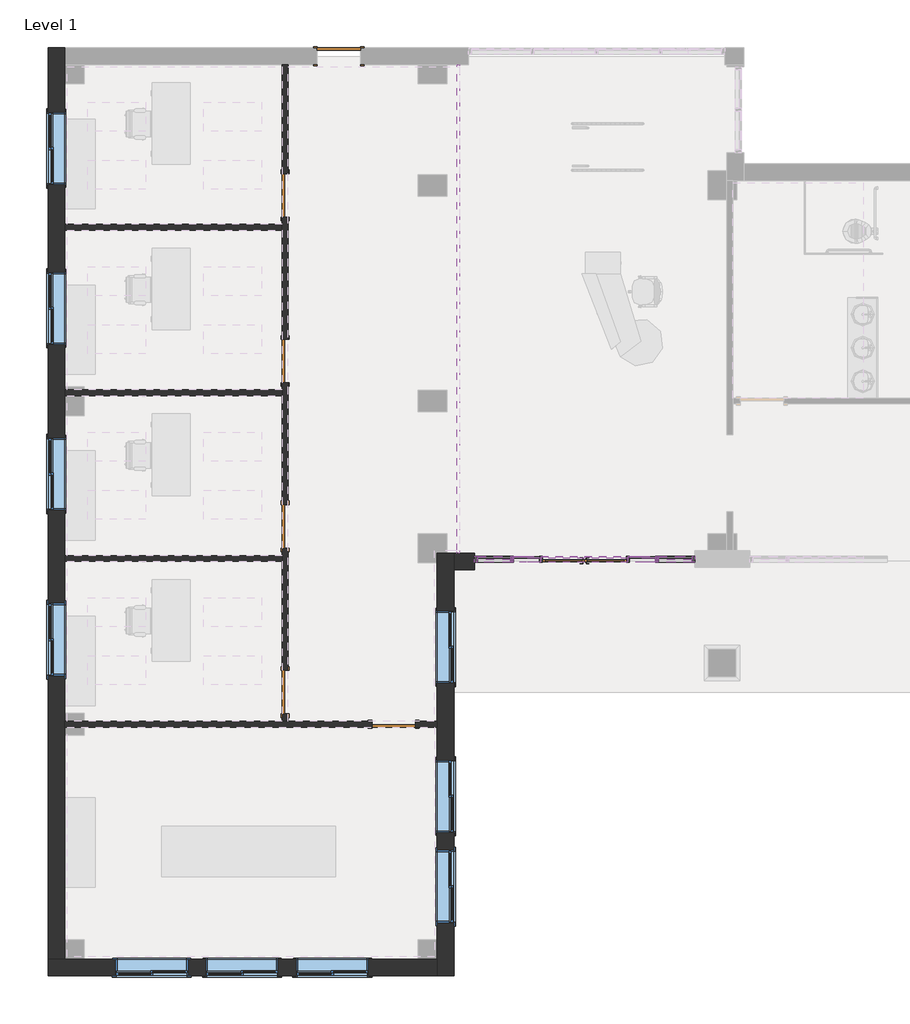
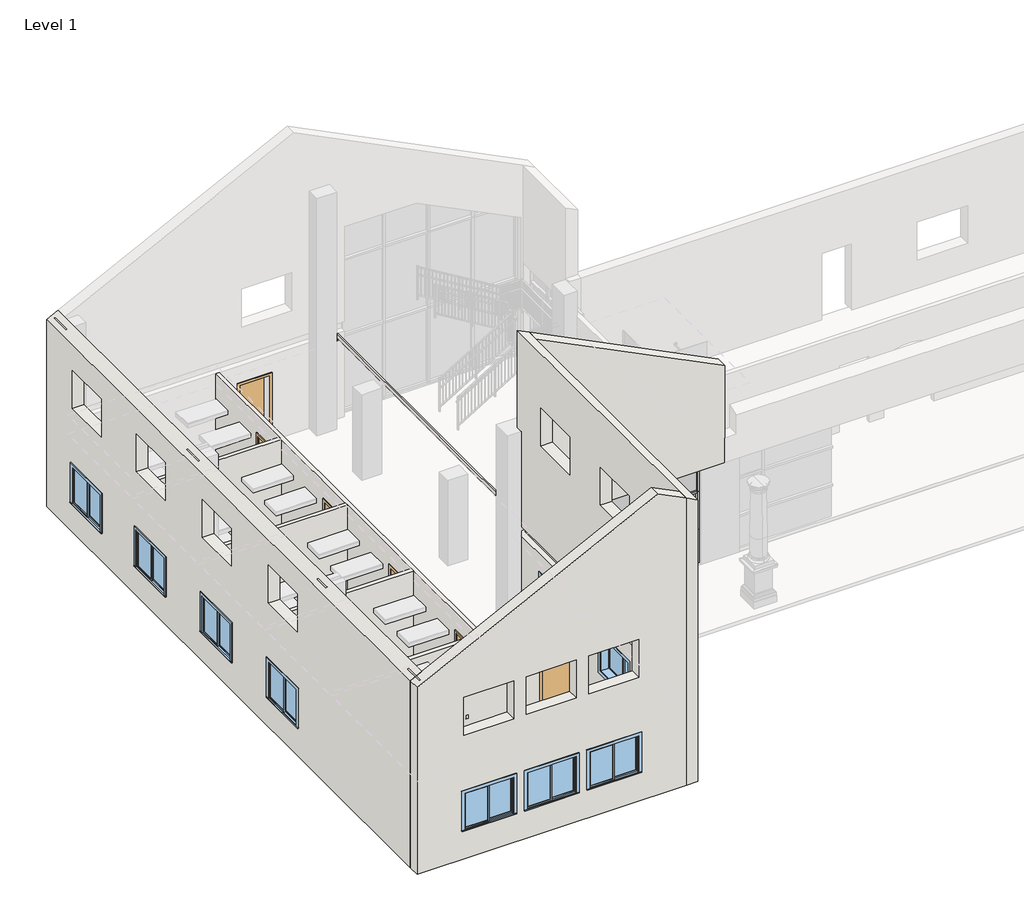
# One storey, part 1 of 8: 28 members, 10 walls, 10 windows, 9 plates, 7 doors.
"""IFC4 building model written with IfcOpenShell, lengths in millimetres."""

from ifc_helpers import new_model, si_unit, origin, origin_with_axes, place, context, project, spatial, polyline, outline, extrude, faceted_brep, transform, mapped, element, save
from components import curtain_wall_store_front_dbl_store_front_double_door_b1cda55e, door_cc5399a4, door_eb9f8b14, member_a715cb85, member_2b49869a, member_c7c5a8a0, member_f3028526, member_75074519, member_c4de40ee, member_2fae0574, member_47bfaf8a, member_13dc6413, member_4ab4c2f5, member_b5e65c95, member_b3f2e294, member_d60e8053, member_3ca69e07, member_338de68b, system_panel_glazed_53b4157c, system_panel_glazed_7b5ce646, system_panel_glazed_23a32a5b, system_panel_glazed_4b03a3f1, system_panel_glazed_2f00aa6c, system_panel_glazed_88a41a63, system_panel_solid_52285aff, system_panel_solid_6039f36e, window_8313e728

model = new_model("IFC4")

# Units and contexts
model_context = context("Model", 3, world=origin())
ifc_project = project(units=[si_unit("LENGTHUNIT", "METRE", prefix="MILLI")], contexts=[model_context])

# Site, building, storey
site = spatial("IfcSite", under=ifc_project)
building = spatial("IfcBuilding", under=site)
storey = spatial("IfcBuildingStorey", under=building, Name="Level 1", Elevation=0.0)

# Doors
placement = place(None, origin())
curtain_wall_store_front_dbl_store_front_double_door_shape = curtain_wall_store_front_dbl_store_front_double_door_b1cda55e(model_context)
element("IfcDoor", 1, ObjectType="Curtain Wall-Store Front-Dbl : Store Front Double Door", at=placement, inside=storey, context=model_context, shape_type="MappedRepresentation", body=[
    mapped(curtain_wall_store_front_dbl_store_front_double_door_shape, transform((-2655.3516552, 175.3980424, 0.0), x_axis=(1.0, 0.0, 0.0), y_axis=(0.0, 1.0, 0.0), z_axis=(0.0, 0.0, 1.0))),
])
door_shape = door_cc5399a4(model_context)
element("IfcDoor", 2, ObjectType="Single-Flush : 36\" x 84\"", at=placement, inside=storey, context=model_context, shape_type="MappedRepresentation", body=[
    mapped(door_shape, transform((-7821.0766552, 10744.9730424, 0.0), x_axis=(-1.0, 0.0, 0.0), y_axis=(0.0, -1.0, 0.0), z_axis=(0.0, 0.0, 1.0))),
])
door_2_shape = door_eb9f8b14(model_context)
element("IfcDoor", 3, ObjectType="Single-Flush : 36\" x 84\"", at=placement, inside=storey, context=model_context, shape_type="MappedRepresentation", body=[
    mapped(door_2_shape, transform((-6668.5516552, -3294.8769576, 0.0), x_axis=(1.0, 0.0, 0.0), y_axis=(0.0, 1.0, 0.0), z_axis=(0.0, 0.0, 1.0))),
])
element("IfcDoor", 4, ObjectType="Single-Flush : 36\" x 84\"", at=placement, inside=storey, context=model_context, shape_type="MappedRepresentation", body=[
    mapped(door_2_shape, transform((-8949.7891552, -2623.3644576, 0.0), x_axis=(0.0, -1.0, 0.0), y_axis=(1.0, 0.0, 0.0), z_axis=(0.0, 0.0, 1.0))),
])
element("IfcDoor", 5, ObjectType="Single-Flush : 36\" x 84\"", at=placement, inside=storey, context=model_context, shape_type="MappedRepresentation", body=[
    mapped(door_2_shape, transform((-8949.7891552, 862.7855424, 0.0), x_axis=(0.0, -1.0, 0.0), y_axis=(1.0, 0.0, 0.0), z_axis=(0.0, 0.0, 1.0))),
])
element("IfcDoor", 6, ObjectType="Single-Flush : 36\" x 84\"", at=placement, inside=storey, context=model_context, shape_type="MappedRepresentation", body=[
    mapped(door_2_shape, transform((-8949.7891552, 4339.4105424, 0.0), x_axis=(0.0, -1.0, 0.0), y_axis=(1.0, 0.0, 0.0), z_axis=(0.0, 0.0, 1.0))),
])
element("IfcDoor", 7, ObjectType="Single-Flush : 36\" x 84\"", at=placement, inside=storey, context=model_context, shape_type="MappedRepresentation", body=[
    mapped(door_2_shape, transform((-8949.7891552, 7820.7980424, 0.0), x_axis=(0.0, -1.0, 0.0), y_axis=(1.0, 0.0, 0.0), z_axis=(0.0, 0.0, 1.0))),
])

# Members
member_shape = member_a715cb85(model_context)
element("IfcMember", 8, ObjectType="Rectangular Mullion : 2.5\" x 5\" Rectangular", at=placement, inside=storey, context=model_context, shape_type="MappedRepresentation", body=[
    mapped(member_shape, transform((-4179.3516552, 175.3980424, 0.0), x_axis=(1.0, 0.0, 0.0), y_axis=(0.0, -1.0, 0.0), z_axis=(0.0, 0.0, -1.0))),
])
element("IfcMember", 9, ObjectType="Rectangular Mullion : 2.5\" x 5\" Rectangular", at=placement, inside=storey, context=model_context, shape_type="MappedRepresentation", body=[
    mapped(member_shape, transform((-1131.3516552, 175.3980424, 0.0), x_axis=(1.0, 0.0, 0.0), y_axis=(0.0, -1.0, 0.0), z_axis=(0.0, 0.0, -1.0))),
])
element("IfcMember", 10, ObjectType="Rectangular Mullion : 2.5\" x 5\" Rectangular", at=placement, inside=storey, context=model_context, shape_type="MappedRepresentation", body=[
    mapped(member_shape, transform((-369.3516552, 175.3980424, 0.0), x_axis=(1.0, 0.0, 0.0), y_axis=(0.0, -1.0, 0.0), z_axis=(0.0, 0.0, -1.0))),
])
member_2_shape = member_2b49869a(model_context)
element("IfcMember", 11, ObjectType="Rectangular Mullion : 2.5\" x 5\" Rectangular", at=placement, inside=storey, context=model_context, shape_type="MappedRepresentation", body=[
    mapped(member_2_shape, transform((-4179.3516552, 175.3980424, 1066.8), x_axis=(1.0, 0.0, 0.0), y_axis=(0.0, -1.0, 0.0), z_axis=(0.0, 0.0, -1.0))),
])
element("IfcMember", 12, ObjectType="Rectangular Mullion : 2.5\" x 5\" Rectangular", at=placement, inside=storey, context=model_context, shape_type="MappedRepresentation", body=[
    mapped(member_2_shape, transform((-1131.3516552, 175.3980424, 1066.8), x_axis=(1.0, 0.0, 0.0), y_axis=(0.0, -1.0, 0.0), z_axis=(0.0, 0.0, -1.0))),
])
element("IfcMember", 13, ObjectType="Rectangular Mullion : 2.5\" x 5\" Rectangular", at=placement, inside=storey, context=model_context, shape_type="MappedRepresentation", body=[
    mapped(member_2_shape, transform((-369.3516552, 175.3980424, 1066.8), x_axis=(1.0, 0.0, 0.0), y_axis=(0.0, -1.0, 0.0), z_axis=(0.0, 0.0, -1.0))),
])
member_3_shape = member_c7c5a8a0(model_context)
element("IfcMember", 14, ObjectType="Rectangular Mullion : 2.5\" x 5\" Rectangular", at=placement, inside=storey, context=model_context, shape_type="MappedRepresentation", body=[
    mapped(member_3_shape, transform((-401.1016552, 175.3980424, 2286.0), x_axis=(0.0, 0.0, 1.0), y_axis=(0.0, -1.0, 0.0), z_axis=(1.0, 0.0, 0.0))),
])
element("IfcMember", 15, ObjectType="Rectangular Mullion : 2.5\" x 5\" Rectangular", at=placement, inside=storey, context=model_context, shape_type="MappedRepresentation", body=[
    mapped(member_3_shape, transform((-401.1016552, 175.3980424, 1066.8), x_axis=(0.0, 0.0, 1.0), y_axis=(0.0, -1.0, 0.0), z_axis=(1.0, 0.0, 0.0))),
])
member_4_shape = member_f3028526(model_context)
element("IfcMember", 16, ObjectType="Rectangular Mullion : 2.5\" x 5\" Rectangular", at=placement, inside=storey, context=model_context, shape_type="MappedRepresentation", body=[
    mapped(member_4_shape, transform((-4211.1016552, 175.3980424, 2286.0), x_axis=(0.0, 0.0, 1.0), y_axis=(0.0, -1.0, 0.0), z_axis=(1.0, 0.0, 0.0))),
])
element("IfcMember", 17, ObjectType="Rectangular Mullion : 2.5\" x 5\" Rectangular", at=placement, inside=storey, context=model_context, shape_type="MappedRepresentation", body=[
    mapped(member_4_shape, transform((-4211.1016552, 175.3980424, 1066.8), x_axis=(0.0, 0.0, 1.0), y_axis=(0.0, -1.0, 0.0), z_axis=(1.0, 0.0, 0.0))),
])
member_5_shape = member_75074519(model_context)
element("IfcMember", 18, ObjectType="Rectangular Mullion : 2.5\" x 5\" Rectangular", at=placement, inside=storey, context=model_context, shape_type="MappedRepresentation", body=[
    mapped(member_5_shape, transform((-4968.3391552, 175.3980424, 2286.0), x_axis=(-1.0, 0.0, 0.0), y_axis=(0.0, -1.0, 0.0), z_axis=(0.0, 0.0, 1.0))),
])
member_6_shape = member_c4de40ee(model_context)
element("IfcMember", 19, ObjectType="Rectangular Mullion : 2.5\" x 5\" Rectangular", at=placement, inside=storey, context=model_context, shape_type="MappedRepresentation", body=[
    mapped(member_6_shape, transform((-4968.3391552, 175.3980424, 1066.8), x_axis=(-1.0, 0.0, 0.0), y_axis=(0.0, -1.0, 0.0), z_axis=(0.0, 0.0, 1.0))),
])
member_7_shape = member_2fae0574(model_context)
element("IfcMember", 20, ObjectType="Rectangular Mullion : 2.5\" x 5\" Rectangular", at=placement, inside=storey, context=model_context, shape_type="MappedRepresentation", body=[
    mapped(member_7_shape, transform((-1740.9516552, 175.3980424, 3060.0), x_axis=(0.0, 0.0, 1.0), y_axis=(0.0, -1.0, 0.0), z_axis=(1.0, 0.0, 0.0))),
])
member_8_shape = member_47bfaf8a(model_context)
element("IfcMember", 21, ObjectType="Rectangular Mullion : 2.5\" x 5\" Rectangular", at=placement, inside=storey, context=model_context, shape_type="MappedRepresentation", body=[
    mapped(member_8_shape, transform((-3569.7516552, 175.3980424, 3060.0), x_axis=(0.0, 0.0, 1.0), y_axis=(0.0, -1.0, 0.0), z_axis=(1.0, 0.0, 0.0))),
])
element("IfcMember", 22, ObjectType="Rectangular Mullion : 2.5\" x 5\" Rectangular", at=placement, inside=storey, context=model_context, shape_type="MappedRepresentation", body=[
    mapped(member_8_shape, transform((-1131.3516552, 175.3980424, 3060.0), x_axis=(0.0, 0.0, 1.0), y_axis=(0.0, -1.0, 0.0), z_axis=(1.0, 0.0, 0.0))),
])
member_9_shape = member_13dc6413(model_context)
element("IfcMember", 23, ObjectType="Rectangular Mullion : 2.5\" x 5\" Rectangular", at=placement, inside=storey, context=model_context, shape_type="MappedRepresentation", body=[
    mapped(member_9_shape, transform((-337.6016552, 175.3980424, 3060.0), x_axis=(0.0, 0.0, 1.0), y_axis=(0.0, -1.0, 0.0), z_axis=(1.0, 0.0, 0.0))),
])
member_10_shape = member_4ab4c2f5(model_context)
element("IfcMember", 24, ObjectType="Rectangular Mullion : 2.5\" x 5\" Rectangular", at=placement, inside=storey, context=model_context, shape_type="MappedRepresentation", body=[
    mapped(member_10_shape, transform((-4179.3516552, 175.3980424, 3060.0), x_axis=(0.0, 0.0, 1.0), y_axis=(0.0, -1.0, 0.0), z_axis=(1.0, 0.0, 0.0))),
])
element("IfcMember", 25, ObjectType="Rectangular Mullion : 2.5\" x 5\" Rectangular", at=placement, inside=storey, context=model_context, shape_type="MappedRepresentation", body=[
    mapped(member_shape, transform((-3569.7516552, 175.3980424, 0.0), x_axis=(1.0, 0.0, 0.0), y_axis=(0.0, -1.0, 0.0), z_axis=(0.0, 0.0, -1.0))),
])
element("IfcMember", 26, ObjectType="Rectangular Mullion : 2.5\" x 5\" Rectangular", at=placement, inside=storey, context=model_context, shape_type="MappedRepresentation", body=[
    mapped(member_shape, transform((-1740.9516552, 175.3980424, 0.0), x_axis=(1.0, 0.0, 0.0), y_axis=(0.0, -1.0, 0.0), z_axis=(0.0, 0.0, -1.0))),
])
member_11_shape = member_b5e65c95(model_context)
element("IfcMember", 27, ObjectType="Rectangular Mullion : 2.5\" x 5\" Rectangular", at=placement, inside=storey, context=model_context, shape_type="MappedRepresentation", body=[
    mapped(member_11_shape, transform((-3569.7516552, 175.3980424, 2286.0), x_axis=(0.0, 0.0, 1.0), y_axis=(0.0, -1.0, 0.0), z_axis=(1.0, 0.0, 0.0))),
])
member_12_shape = member_b3f2e294(model_context)
element("IfcMember", 28, ObjectType="Rectangular Mullion : 2.5\" x 5\" Rectangular", at=placement, inside=storey, context=model_context, shape_type="MappedRepresentation", body=[
    mapped(member_12_shape, transform((-3569.7516552, 175.3980424, 1066.8), x_axis=(1.0, 0.0, 0.0), y_axis=(0.0, -1.0, 0.0), z_axis=(0.0, 0.0, -1.0))),
])
element("IfcMember", 29, ObjectType="Rectangular Mullion : 2.5\" x 5\" Rectangular", at=placement, inside=storey, context=model_context, shape_type="MappedRepresentation", body=[
    mapped(member_12_shape, transform((-1740.9516552, 175.3980424, 1066.8), x_axis=(1.0, 0.0, 0.0), y_axis=(0.0, -1.0, 0.0), z_axis=(0.0, 0.0, -1.0))),
])
element("IfcMember", 30, ObjectType="Rectangular Mullion : 2.5\" x 5\" Rectangular", at=placement, inside=storey, context=model_context, shape_type="MappedRepresentation", body=[
    mapped(member_11_shape, transform((-1163.1016552, 175.3980424, 2286.0), x_axis=(0.0, 0.0, 1.0), y_axis=(0.0, -1.0, 0.0), z_axis=(1.0, 0.0, 0.0))),
])
member_13_shape = member_d60e8053(model_context)
element("IfcMember", 31, ObjectType="Rectangular Mullion : 2.5\" x 5\" Rectangular", at=placement, inside=storey, context=model_context, shape_type="MappedRepresentation", body=[
    mapped(member_13_shape, transform((-1740.9516552, 175.3980424, 2286.0), x_axis=(0.0, 0.0, 1.0), y_axis=(0.0, -1.0, 0.0), z_axis=(1.0, 0.0, 0.0))),
])
member_14_shape = member_3ca69e07(model_context)
element("IfcMember", 32, ObjectType="Rectangular Mullion : 2.5\" x 5\" Rectangular", at=placement, inside=storey, context=model_context, shape_type="MappedRepresentation", body=[
    mapped(member_14_shape, transform((-4179.3516552, 175.3980424, 2286.0), x_axis=(1.0, 0.0, 0.0), y_axis=(0.0, -1.0, 0.0), z_axis=(0.0, 0.0, -1.0))),
])
element("IfcMember", 33, ObjectType="Rectangular Mullion : 2.5\" x 5\" Rectangular", at=placement, inside=storey, context=model_context, shape_type="MappedRepresentation", body=[
    mapped(member_14_shape, transform((-1131.3516552, 175.3980424, 2286.0), x_axis=(1.0, 0.0, 0.0), y_axis=(0.0, -1.0, 0.0), z_axis=(0.0, 0.0, -1.0))),
])
element("IfcMember", 34, ObjectType="Rectangular Mullion : 2.5\" x 5\" Rectangular", at=placement, inside=storey, context=model_context, shape_type="MappedRepresentation", body=[
    mapped(member_14_shape, transform((-369.3516552, 175.3980424, 2286.0), x_axis=(1.0, 0.0, 0.0), y_axis=(0.0, -1.0, 0.0), z_axis=(0.0, 0.0, -1.0))),
])
member_15_shape = member_338de68b(model_context)
element("IfcMember", 35, ObjectType="Rectangular Mullion : 2.5\" x 5\" Rectangular", at=placement, inside=storey, context=model_context, shape_type="MappedRepresentation", body=[
    mapped(member_15_shape, transform((-4968.3391552, 175.3980424, 2996.5), x_axis=(-1.0, 0.0, 0.0), y_axis=(0.0, -1.0, 0.0), z_axis=(0.0, 0.0, 1.0))),
])

# Plates
system_panel_glazed_shape = system_panel_glazed_53b4157c(model_context)
element("IfcPlate", 36, ObjectType="System Panel : Glazed", at=placement, inside=storey, context=model_context, shape_type="MappedRepresentation", body=[
    mapped(system_panel_glazed_shape, transform((-750.3516552, 175.3980424, 0.0), x_axis=(1.0, 0.0, 0.0), y_axis=(0.0, 1.0, 0.0), z_axis=(0.0, 0.0, 1.0))),
])
system_panel_glazed_2_shape = system_panel_glazed_7b5ce646(model_context)
element("IfcPlate", 37, ObjectType="System Panel : Glazed", at=placement, inside=storey, context=model_context, shape_type="MappedRepresentation", body=[
    mapped(system_panel_glazed_2_shape, transform((-750.3516552, 175.3980424, 1098.55), x_axis=(1.0, 0.0, 0.0), y_axis=(0.0, 1.0, 0.0), z_axis=(0.0, 0.0, 1.0))),
])
system_panel_glazed_3_shape = system_panel_glazed_23a32a5b(model_context)
element("IfcPlate", 38, ObjectType="System Panel : Glazed", at=placement, inside=storey, context=model_context, shape_type="MappedRepresentation", body=[
    mapped(system_panel_glazed_3_shape, transform((-4557.9704052, 175.3980424, 0.0), x_axis=(1.0, 0.0, 0.0), y_axis=(0.0, 1.0, 0.0), z_axis=(0.0, 0.0, 1.0))),
])
system_panel_glazed_4_shape = system_panel_glazed_4b03a3f1(model_context)
element("IfcPlate", 39, ObjectType="System Panel : Glazed", at=placement, inside=storey, context=model_context, shape_type="MappedRepresentation", body=[
    mapped(system_panel_glazed_4_shape, transform((-4557.9704052, 175.3980424, 1098.55), x_axis=(1.0, 0.0, 0.0), y_axis=(0.0, 1.0, 0.0), z_axis=(0.0, 0.0, 1.0))),
])
system_panel_glazed_5_shape = system_panel_glazed_2f00aa6c(model_context)
element("IfcPlate", 40, ObjectType="System Panel : Glazed", at=placement, inside=storey, context=model_context, shape_type="MappedRepresentation", body=[
    mapped(system_panel_glazed_5_shape, transform((-3874.5516552, 175.3980424, 0.0), x_axis=(1.0, 0.0, 0.0), y_axis=(0.0, 1.0, 0.0), z_axis=(0.0, 0.0, 1.0))),
])
element("IfcPlate", 41, ObjectType="System Panel : Glazed", at=placement, inside=storey, context=model_context, shape_type="MappedRepresentation", body=[
    mapped(system_panel_glazed_5_shape, transform((-1436.1516552, 175.3980424, 0.0), x_axis=(1.0, 0.0, 0.0), y_axis=(0.0, 1.0, 0.0), z_axis=(0.0, 0.0, 1.0))),
])
system_panel_glazed_6_shape = system_panel_glazed_88a41a63(model_context)
element("IfcPlate", 42, ObjectType="System Panel : Glazed", at=placement, inside=storey, context=model_context, shape_type="MappedRepresentation", body=[
    mapped(system_panel_glazed_6_shape, transform((-2655.3516552, 175.3980424, 2317.75), x_axis=(1.0, 0.0, 0.0), y_axis=(0.0, 1.0, 0.0), z_axis=(0.0, 0.0, 1.0))),
])
system_panel_solid_shape = system_panel_solid_52285aff(model_context)
element("IfcPlate", 43, ObjectType="System Panel : Solid", at=placement, inside=storey, context=model_context, shape_type="MappedRepresentation", body=[
    mapped(system_panel_solid_shape, transform((-4557.9704052, 175.3980424, 2317.75), x_axis=(1.0, 0.0, 0.0), y_axis=(0.0, 1.0, 0.0), z_axis=(0.0, 0.0, 1.0))),
])
system_panel_solid_2_shape = system_panel_solid_6039f36e(model_context)
element("IfcPlate", 44, ObjectType="System Panel : Solid", at=placement, inside=storey, context=model_context, shape_type="MappedRepresentation", body=[
    mapped(system_panel_solid_2_shape, transform((-750.3516552, 175.3980424, 2317.75), x_axis=(1.0, 0.0, 0.0), y_axis=(0.0, 1.0, 0.0), z_axis=(0.0, 0.0, 1.0))),
])

# Walls
element("IfcWall", 45, ObjectType="Soffit - 1/2\" GWB & Metal Stud", at=placement, inside=storey, context=model_context, shape_type="Brep", body=[
    faceted_brep([(-5284.2516552, 10568.7605424, 2755.2), (-5284.2516552, 9522.777236, 2755.2), (-5284.2516552, 300.8105424, 2755.2), (-5284.2516552, 300.8105424, 2540.0), (-5284.2516552, 351.6105424, 2540.0), (-5284.2516552, 351.6105424, 2647.95), (-5284.2516552, 10517.9605424, 2647.95), (-5284.2516552, 10517.9605424, 2540.0), (-5284.2516552, 10568.7605424, 2540.0), (-5335.0516552, 300.8105424, 2755.2), (-5335.0516552, 10568.7605424, 2755.2), (-5335.0516552, 10568.7605424, 2540.0), (-5335.0516552, 10517.9605424, 2540.0), (-5335.0516552, 10517.9605424, 2647.95), (-5335.0516552, 351.6105424, 2647.95), (-5335.0516552, 351.6105424, 2540.0), (-5335.0516552, 300.8105424, 2540.0)], [[[0, 1, 2, 3, 4, 5, 6, 7, 8]], [[9, 10, 11, 12, 13, 14, 15, 16]], [[11, 8, 7, 12]], [[3, 16, 15, 4]], [[10, 9, 2, 1, 0]], [[13, 6, 5, 14]], [[14, 5, 4, 15]], [[6, 13, 12, 7]], [[0, 8, 11, 10]], [[3, 2, 9, 16]]]),
])
element("IfcWall", 46, ObjectType="Exterior - Brick on Mtl. Stud", at=placement, inside=storey, context=model_context, shape_type="Brep", body=[
    faceted_brep([(-5754.1516552, 300.8105424, 0.0), (-5754.1516552, 97.6105424, 0.0), (-5754.1516552, -3232.9644576, 0.0), (-5754.1516552, -3356.7894576, 0.0), (-5754.1516552, -7827.1894576, 0.0), (-5754.1516552, -8233.5894576, 0.0), (-5754.1516552, -8586.0144576, 0.0), (-5754.1516552, -8586.0144576, 9230.55), (-5754.1516552, -8233.5894576, 9230.55), (-5754.1516552, 300.8105424, 9230.55), (-5754.1516552, 300.8105424, 6100.0), (-5754.1516552, 300.8105424, 3060.0), (-5754.1516552, -3232.9644576, 3060.0), (-5754.1516552, -3356.7894576, 3060.0), (-5754.1516552, -8233.5894576, 3060.0), (-5754.1516552, -8398.6894576, 3060.0), (-5754.1516552, -8398.6894576, 2755.2), (-5754.1516552, -8233.5894576, 2755.2), (-5754.1516552, -3356.7894576, 2755.2), (-5754.1516552, -3232.9644576, 2755.2), (-5754.1516552, 300.8105424, 2755.2), (-5754.1516552, -7471.5894576, 2133.6), (-5754.1516552, -7471.5894576, 914.4), (-5754.1516552, -5947.5894576, 914.4), (-5754.1516552, -5947.5894576, 2133.6), (-5754.1516552, -5572.9394576, 2133.6), (-5754.1516552, -5572.9394576, 914.4), (-5754.1516552, -4048.9394576, 914.4), (-5754.1516552, -4048.9394576, 2133.6), (-5754.1516552, -2439.2144576, 2133.6), (-5754.1516552, -2439.2144576, 914.4), (-5754.1516552, -915.2144576, 914.4), (-5754.1516552, -915.2144576, 2133.6), (-5754.1516552, -2439.2144576, 7471.6), (-5754.1516552, -2439.2144576, 6252.4), (-5754.1516552, -915.2144576, 6252.4), (-5754.1516552, -915.2144576, 7471.6), (-5754.1516552, -5572.9394576, 7471.6), (-5754.1516552, -5572.9394576, 6252.4), (-5754.1516552, -4048.9394576, 6252.4), (-5754.1516552, -4048.9394576, 7471.6), (-5754.1516552, -7471.5894576, 7471.6), (-5754.1516552, -7471.5894576, 6252.4), (-5754.1516552, -5947.5894576, 6252.4), (-5754.1516552, -5947.5894576, 7471.6), (-5754.1516552, -5572.9394576, 5193.6), (-5754.1516552, -5572.9394576, 3974.4), (-5754.1516552, -4048.9394576, 3974.4), (-5754.1516552, -4048.9394576, 5193.6), (-5754.1516552, -7471.5894576, 5193.6), (-5754.1516552, -7471.5894576, 3974.4), (-5754.1516552, -5947.5894576, 3974.4), (-5754.1516552, -5947.5894576, 5193.6), (-5401.7266552, -8586.0144576, 0.0), (-5401.7266552, -51.6144576, 0.0), (-5401.7266552, 300.8105424, 0.0), (-5401.7266552, 300.8105424, 2755.2), (-5401.7266552, 175.3980424, 2755.2), (-5401.7266552, 175.3980424, 3060.0), (-5401.7266552, 300.8105424, 3060.0), (-5401.7266552, 300.8105424, 9054.3375), (-5401.7266552, -51.6144576, 9054.3375), (-5401.7266552, -8586.0144576, 9054.3375), (-5401.7266552, -7471.5894576, 914.4), (-5401.7266552, -7471.5894576, 2133.6), (-5401.7266552, -5947.5894576, 2133.6), (-5401.7266552, -5947.5894576, 914.4), (-5401.7266552, -5572.9394576, 914.4), (-5401.7266552, -5572.9394576, 2133.6), (-5401.7266552, -4048.9394576, 2133.6), (-5401.7266552, -4048.9394576, 914.4), (-5401.7266552, -2439.2144576, 914.4), (-5401.7266552, -2439.2144576, 2133.6), (-5401.7266552, -915.2144576, 2133.6), (-5401.7266552, -915.2144576, 914.4), (-5401.7266552, -2439.2144576, 6252.4), (-5401.7266552, -2439.2144576, 7471.6), (-5401.7266552, -915.2144576, 7471.6), (-5401.7266552, -915.2144576, 6252.4), (-5401.7266552, -5572.9394576, 6252.4), (-5401.7266552, -5572.9394576, 7471.6), (-5401.7266552, -4048.9394576, 7471.6), (-5401.7266552, -4048.9394576, 6252.4), (-5401.7266552, -7471.5894576, 6252.4), (-5401.7266552, -7471.5894576, 7471.6), (-5401.7266552, -5947.5894576, 7471.6), (-5401.7266552, -5947.5894576, 6252.4), (-5401.7266552, -5572.9394576, 3974.4), (-5401.7266552, -5572.9394576, 5193.6), (-5401.7266552, -4048.9394576, 5193.6), (-5401.7266552, -4048.9394576, 3974.4), (-5401.7266552, -7471.5894576, 3974.4), (-5401.7266552, -7471.5894576, 5193.6), (-5401.7266552, -5947.5894576, 5193.6), (-5401.7266552, -5947.5894576, 3974.4), (-5550.9516552, 300.8105424, 0.0), (-5589.0516552, -8398.6894576, 2755.2), (-5589.0516552, 175.3980424, 2755.2), (-5589.0516552, 175.3980424, 3060.0), (-5589.0516552, -8398.6894576, 3060.0)], [[[0, 1, 2, 3, 4, 5, 6, 7, 8, 9, 10, 11, 12, 13, 14, 15, 16, 17, 18, 19, 20], [21, 22, 23, 24], [25, 26, 27, 28], [29, 30, 31, 32], [33, 34, 35, 36], [37, 38, 39, 40], [41, 42, 43, 44], [45, 46, 47, 48], [49, 50, 51, 52]], [[53, 54, 55, 56, 57, 58, 59, 60, 61, 62], [63, 64, 65, 66], [67, 68, 69, 70], [71, 72, 73, 74], [75, 76, 77, 78], [79, 80, 81, 82], [83, 84, 85, 86], [87, 88, 89, 90], [91, 92, 93, 94]], [[6, 5, 4, 3, 2, 1, 0, 95, 55, 54, 53]], [[22, 21, 64, 63]], [[23, 22, 63, 66]], [[24, 23, 66, 65]], [[21, 24, 65, 64]], [[26, 25, 68, 67]], [[27, 26, 67, 70]], [[28, 27, 70, 69]], [[25, 28, 69, 68]], [[30, 29, 72, 71]], [[31, 30, 71, 74]], [[32, 31, 74, 73]], [[29, 32, 73, 72]], [[9, 8, 7, 62, 61, 60]], [[34, 33, 76, 75]], [[35, 34, 75, 78]], [[36, 35, 78, 77]], [[33, 36, 77, 76]], [[38, 37, 80, 79]], [[39, 38, 79, 82]], [[40, 39, 82, 81]], [[37, 40, 81, 80]], [[42, 41, 84, 83]], [[43, 42, 83, 86]], [[44, 43, 86, 85]], [[41, 44, 85, 84]], [[46, 45, 88, 87]], [[47, 46, 87, 90]], [[48, 47, 90, 89]], [[45, 48, 89, 88]], [[50, 49, 92, 91]], [[51, 50, 91, 94]], [[52, 51, 94, 93]], [[49, 52, 93, 92]], [[96, 97, 57, 56, 20, 19, 18, 17, 16]], [[98, 99, 15, 14, 13, 12, 11, 59, 58]], [[97, 96, 99, 98]], [[99, 96, 16, 15]], [[9, 60, 59, 11, 10]], [[55, 95, 0, 20, 56]], [[7, 6, 53, 62]], [[97, 98, 58, 57]]]),
])
element("IfcWall", 47, ObjectType="Exterior - Brick on Mtl. Stud", at=placement, inside=storey, context=model_context, shape_type="Brep", body=[
    faceted_brep([(-5754.1516552, -8233.5894576, 0.0), (-6160.5516552, -8233.5894576, 0.0), (-13177.3016552, -8233.5894576, 0.0), (-13583.7016552, -8233.5894576, 0.0), (-13936.1266552, -8233.5894576, 0.0), (-13936.1266552, -8233.5894576, 6006.3375), (-13583.7016552, -8233.5894576, 6182.55), (-6620.9266552, -8233.5894576, 9663.9375), (-5754.1516552, -8233.5894576, 9230.55), (-5754.1516552, -8233.5894576, 6100.0), (-5754.1516552, -8233.5894576, 3060.0), (-13596.4016552, -8233.5894576, 3060.0), (-13596.4016552, -8233.5894576, 2755.2), (-5754.1516552, -8233.5894576, 2755.2), (-12516.9016552, -8233.5894576, 2133.6), (-12516.9016552, -8233.5894576, 914.4), (-10992.9016552, -8233.5894576, 914.4), (-10992.9016552, -8233.5894576, 2133.6), (-10618.2516552, -8233.5894576, 2133.6), (-10618.2516552, -8233.5894576, 914.4), (-9094.2516552, -8233.5894576, 914.4), (-9094.2516552, -8233.5894576, 2133.6), (-8719.6016552, -8233.5894576, 2133.6), (-8719.6016552, -8233.5894576, 914.4), (-7195.6016552, -8233.5894576, 914.4), (-7195.6016552, -8233.5894576, 2133.6), (-8719.6016552, -8233.5894576, 5193.6), (-8719.6016552, -8233.5894576, 3974.4), (-7195.6016552, -8233.5894576, 3974.4), (-7195.6016552, -8233.5894576, 5193.6), (-10618.2516552, -8233.5894576, 5193.6), (-10618.2516552, -8233.5894576, 3974.4), (-9094.2516552, -8233.5894576, 3974.4), (-9094.2516552, -8233.5894576, 5193.6), (-12516.9016552, -8233.5894576, 5193.6), (-12516.9016552, -8233.5894576, 3974.4), (-10992.9016552, -8233.5894576, 3974.4), (-10992.9016552, -8233.5894576, 5193.6), (-13936.1266552, -8586.0144576, 0.0), (-5754.1516552, -8586.0144576, 0.0), (-5754.1516552, -8586.0144576, 9230.55), (-6620.9266552, -8586.0144576, 9663.9375), (-13936.1266552, -8586.0144576, 6006.3375), (-12516.9016552, -8586.0144576, 914.4), (-12516.9016552, -8586.0144576, 2133.6), (-10992.9016552, -8586.0144576, 2133.6), (-10992.9016552, -8586.0144576, 914.4), (-10618.2516552, -8586.0144576, 914.4), (-10618.2516552, -8586.0144576, 2133.6), (-9094.2516552, -8586.0144576, 2133.6), (-9094.2516552, -8586.0144576, 914.4), (-8719.6016552, -8586.0144576, 914.4), (-8719.6016552, -8586.0144576, 2133.6), (-7195.6016552, -8586.0144576, 2133.6), (-7195.6016552, -8586.0144576, 914.4), (-8719.6016552, -8586.0144576, 3974.4), (-8719.6016552, -8586.0144576, 5193.6), (-7195.6016552, -8586.0144576, 5193.6), (-7195.6016552, -8586.0144576, 3974.4), (-10618.2516552, -8586.0144576, 3974.4), (-10618.2516552, -8586.0144576, 5193.6), (-9094.2516552, -8586.0144576, 5193.6), (-9094.2516552, -8586.0144576, 3974.4), (-12516.9016552, -8586.0144576, 3974.4), (-12516.9016552, -8586.0144576, 5193.6), (-10992.9016552, -8586.0144576, 5193.6), (-10992.9016552, -8586.0144576, 3974.4), (-13596.4016552, -8398.6894576, 2755.2), (-5754.1516552, -8398.6894576, 2755.2), (-5754.1516552, -8398.6894576, 3060.0), (-13596.4016552, -8398.6894576, 3060.0)], [[[0, 1, 2, 3, 4, 5, 6, 7, 8, 9, 10, 11, 12, 13], [14, 15, 16, 17], [18, 19, 20, 21], [22, 23, 24, 25], [26, 27, 28, 29], [30, 31, 32, 33], [34, 35, 36, 37]], [[38, 39, 40, 41, 42], [43, 44, 45, 46], [47, 48, 49, 50], [51, 52, 53, 54], [55, 56, 57, 58], [59, 60, 61, 62], [63, 64, 65, 66]], [[4, 3, 2, 1, 0, 39, 38]], [[15, 14, 44, 43]], [[16, 15, 43, 46]], [[17, 16, 46, 45]], [[14, 17, 45, 44]], [[19, 18, 48, 47]], [[20, 19, 47, 50]], [[21, 20, 50, 49]], [[18, 21, 49, 48]], [[23, 22, 52, 51]], [[24, 23, 51, 54]], [[25, 24, 54, 53]], [[22, 25, 53, 52]], [[8, 7, 41, 40]], [[7, 6, 5, 42, 41]], [[27, 26, 56, 55]], [[28, 27, 55, 58]], [[29, 28, 58, 57]], [[26, 29, 57, 56]], [[31, 30, 60, 59]], [[32, 31, 59, 62]], [[33, 32, 62, 61]], [[30, 33, 61, 60]], [[35, 34, 64, 63]], [[36, 35, 63, 66]], [[37, 36, 66, 65]], [[34, 37, 65, 64]], [[12, 67, 68, 13]], [[69, 70, 11, 10]], [[67, 70, 69, 68]], [[70, 67, 12, 11]], [[5, 4, 38, 42]], [[8, 40, 39, 0, 13, 68, 69, 10, 9]]]),
])
element("IfcWall", 48, ObjectType="Exterior - Brick on Mtl. Stud", at=placement, inside=storey, context=model_context, shape_type="Brep", body=[
    faceted_brep([(-13583.7016552, -8233.5894576, 0.0), (-13583.7016552, -7827.1894576, 0.0), (-13583.7016552, -3523.4769576, 0.0), (-13583.7016552, -3356.7894576, 0.0), (-13583.7016552, -3232.9644576, 0.0), (-13583.7016552, -3066.2769576, 0.0), (-13583.7016552, 124.5980424, 0.0), (-13583.7016552, 248.4230424, 0.0), (-13583.7016552, 3191.6480424, 0.0), (-13583.7016552, 3605.9855424, 0.0), (-13583.7016552, 3729.8105424, 0.0), (-13583.7016552, 3801.2480424, 0.0), (-13583.7016552, 7087.3730424, 0.0), (-13583.7016552, 7211.1980424, 0.0), (-13583.7016552, 10162.3605424, 0.0), (-13583.7016552, 10568.7605424, 0.0), (-13583.7016552, 10921.1855424, 0.0), (-13583.7016552, 10921.1855424, 6182.55), (-13583.7016552, 10568.7605424, 6182.55), (-13583.7016552, -8233.5894576, 6182.55), (-13583.7016552, -8233.5894576, 6100.0), (-13583.7016552, -8233.5894576, 3060.0), (-13583.7016552, -3356.7894576, 3060.0), (-13583.7016552, -3232.9644576, 3060.0), (-13583.7016552, 124.5980424, 3060.0), (-13583.7016552, 248.4230424, 3060.0), (-13583.7016552, 3605.9855424, 3060.0), (-13583.7016552, 3729.8105424, 3060.0), (-13583.7016552, 7087.3730424, 3060.0), (-13583.7016552, 7211.1980424, 3060.0), (-13583.7016552, 10733.8605424, 3060.0), (-13583.7016552, 10733.8605424, 2755.2), (-13583.7016552, 7211.1980424, 2755.2), (-13583.7016552, 7087.3730424, 2755.2), (-13583.7016552, 3729.8105424, 2755.2), (-13583.7016552, 3605.9855424, 2755.2), (-13583.7016552, 248.4230424, 2755.2), (-13583.7016552, 124.5980424, 2755.2), (-13583.7016552, -3232.9644576, 2755.2), (-13583.7016552, -3356.7894576, 2755.2), (-13583.7016552, -8233.5894576, 2755.2), (-13583.7016552, -757.2582076, 2133.6), (-13583.7016552, -757.2582076, 914.4), (-13583.7016552, -2281.2582076, 914.4), (-13583.7016552, -2281.2582076, 2133.6), (-13583.7016552, 2724.1292924, 2133.6), (-13583.7016552, 2724.1292924, 914.4), (-13583.7016552, 1200.1292924, 914.4), (-13583.7016552, 1200.1292924, 2133.6), (-13583.7016552, 6205.5167924, 2133.6), (-13583.7016552, 6205.5167924, 914.4), (-13583.7016552, 4681.5167924, 914.4), (-13583.7016552, 4681.5167924, 2133.6), (-13583.7016552, 9567.0480424, 2133.6), (-13583.7016552, 9567.0480424, 914.4), (-13583.7016552, 8043.0480424, 914.4), (-13583.7016552, 8043.0480424, 2133.6), (-13583.7016552, 9567.0480424, 5193.6), (-13583.7016552, 9567.0480424, 3974.4), (-13583.7016552, 8043.0480424, 3974.4), (-13583.7016552, 8043.0480424, 5193.6), (-13583.7016552, 6205.5167924, 5193.6), (-13583.7016552, 6205.5167924, 3974.4), (-13583.7016552, 4681.5167924, 3974.4), (-13583.7016552, 4681.5167924, 5193.6), (-13583.7016552, 2724.1292924, 5193.6), (-13583.7016552, 2724.1292924, 3974.4), (-13583.7016552, 1200.1292924, 3974.4), (-13583.7016552, 1200.1292924, 5193.6), (-13583.7016552, -757.2582076, 5193.6), (-13583.7016552, -757.2582076, 3974.4), (-13583.7016552, -2281.2582076, 3974.4), (-13583.7016552, -2281.2582076, 5193.6), (-13936.1266552, 10921.1855424, 0.0), (-13936.1266552, -8233.5894576, 0.0), (-13936.1266552, -8233.5894576, 6006.3375), (-13936.1266552, 10921.1855424, 6006.3375), (-13936.1266552, -757.2582076, 914.4), (-13936.1266552, -757.2582076, 2133.6), (-13936.1266552, -2281.2582076, 2133.6), (-13936.1266552, -2281.2582076, 914.4), (-13936.1266552, 2724.1292924, 914.4), (-13936.1266552, 2724.1292924, 2133.6), (-13936.1266552, 1200.1292924, 2133.6), (-13936.1266552, 1200.1292924, 914.4), (-13936.1266552, 6205.5167924, 914.4), (-13936.1266552, 6205.5167924, 2133.6), (-13936.1266552, 4681.5167924, 2133.6), (-13936.1266552, 4681.5167924, 914.4), (-13936.1266552, 9567.0480424, 914.4), (-13936.1266552, 9567.0480424, 2133.6), (-13936.1266552, 8043.0480424, 2133.6), (-13936.1266552, 8043.0480424, 914.4), (-13936.1266552, 9567.0480424, 3974.4), (-13936.1266552, 9567.0480424, 5193.6), (-13936.1266552, 8043.0480424, 5193.6), (-13936.1266552, 8043.0480424, 3974.4), (-13936.1266552, 6205.5167924, 3974.4), (-13936.1266552, 6205.5167924, 5193.6), (-13936.1266552, 4681.5167924, 5193.6), (-13936.1266552, 4681.5167924, 3974.4), (-13936.1266552, 2724.1292924, 3974.4), (-13936.1266552, 2724.1292924, 5193.6), (-13936.1266552, 1200.1292924, 5193.6), (-13936.1266552, 1200.1292924, 3974.4), (-13936.1266552, -757.2582076, 3974.4), (-13936.1266552, -757.2582076, 5193.6), (-13936.1266552, -2281.2582076, 5193.6), (-13936.1266552, -2281.2582076, 3974.4), (-13596.4016552, 10733.8605424, 2755.2), (-13596.4016552, -8233.5894576, 2755.2), (-13596.4016552, 10733.8605424, 3060.0), (-13596.4016552, -8233.5894576, 3060.0)], [[[0, 1, 2, 3, 4, 5, 6, 7, 8, 9, 10, 11, 12, 13, 14, 15, 16, 17, 18, 19, 20, 21, 22, 23, 24, 25, 26, 27, 28, 29, 30, 31, 32, 33, 34, 35, 36, 37, 38, 39, 40], [41, 42, 43, 44], [45, 46, 47, 48], [49, 50, 51, 52], [53, 54, 55, 56], [57, 58, 59, 60], [61, 62, 63, 64], [65, 66, 67, 68], [69, 70, 71, 72]], [[73, 74, 75, 76], [77, 78, 79, 80], [81, 82, 83, 84], [85, 86, 87, 88], [89, 90, 91, 92], [93, 94, 95, 96], [97, 98, 99, 100], [101, 102, 103, 104], [105, 106, 107, 108]], [[16, 15, 14, 13, 12, 11, 10, 9, 8, 7, 6, 5, 4, 3, 2, 1, 0, 74, 73]], [[42, 41, 78, 77]], [[43, 42, 77, 80]], [[44, 43, 80, 79]], [[41, 44, 79, 78]], [[46, 45, 82, 81]], [[47, 46, 81, 84]], [[48, 47, 84, 83]], [[45, 48, 83, 82]], [[50, 49, 86, 85]], [[51, 50, 85, 88]], [[52, 51, 88, 87]], [[49, 52, 87, 86]], [[54, 53, 90, 89]], [[55, 54, 89, 92]], [[56, 55, 92, 91]], [[53, 56, 91, 90]], [[19, 18, 17, 76, 75]], [[58, 57, 94, 93]], [[59, 58, 93, 96]], [[60, 59, 96, 95]], [[57, 60, 95, 94]], [[62, 61, 98, 97]], [[63, 62, 97, 100]], [[64, 63, 100, 99]], [[61, 64, 99, 98]], [[66, 65, 102, 101]], [[67, 66, 101, 104]], [[68, 67, 104, 103]], [[65, 68, 103, 102]], [[70, 69, 106, 105]], [[71, 70, 105, 108]], [[72, 71, 108, 107]], [[69, 72, 107, 106]], [[109, 110, 40, 39, 38, 37, 36, 35, 34, 33, 32, 31]], [[111, 30, 29, 28, 27, 26, 25, 24, 23, 22, 21, 112]], [[111, 109, 31, 30]], [[109, 111, 112, 110]], [[17, 16, 73, 76]], [[75, 74, 0, 40, 110, 112, 21, 20, 19]]]),
])
element("IfcWall", 49, ObjectType="Exterior - Brick on Mtl. Stud", at=placement, inside=storey, context=model_context, shape_type="Brep", body=[
    faceted_brep([(-5401.7266552, 300.8105424, 9054.3375), (341.8483448, 300.8105424, 6182.55), (341.8483448, 300.8105424, 3860.0), (341.8483448, 300.8105424, 3060.0), (-4968.3391552, 300.8105424, 3060.0), (-4968.3391552, 300.8105424, 0.0), (-5401.7266552, 300.8105424, 0.0), (341.8483448, -51.6144576, 6182.55), (-5401.7266552, -51.6144576, 9054.3375), (-5401.7266552, -51.6144576, 0.0), (-4968.3391552, -51.6144576, 0.0), (-4968.3391552, -51.6144576, 3060.0), (341.8483448, -51.6144576, 3060.0), (341.8483448, -51.6144576, 3860.0), (341.8483448, -51.6144576, 4587.075)], [[[0, 1, 2, 3, 4, 5, 6]], [[7, 8, 9, 10, 11, 12, 13, 14]], [[9, 6, 5, 10]], [[1, 0, 8, 7]], [[0, 6, 9, 8]], [[3, 2, 1, 7, 14, 13, 12]], [[4, 11, 10, 5]], [[11, 4, 3, 12]]]),
])
element("IfcWall", 50, ObjectType="Interior - 4 7/8\" Partition (1-hr)", at=placement, inside=storey, context=model_context, shape_type="Brep", body=[
    faceted_brep([(-8887.8766552, 4796.6105424, 0.0), (-8887.8766552, 7363.5980424, 0.0), (-8887.8766552, 7363.5980424, 2133.6), (-8887.8766552, 8277.9980424, 2133.6), (-8887.8766552, 8277.9980424, 0.0), (-8887.8766552, 10568.7605424, 0.0), (-8887.8766552, 10568.7605424, 2755.2), (-8887.8766552, -3232.9644576, 2755.2), (-8887.8766552, -3232.9644576, 2647.95), (-8887.8766552, -3232.9644576, 2540.0), (-8887.8766552, -3232.9644576, 0.0), (-8887.8766552, -3080.5644576, 0.0), (-8887.8766552, -3080.5644576, 2133.6), (-8887.8766552, -2166.1644576, 2133.6), (-8887.8766552, -2166.1644576, 0.0), (-8887.8766552, 405.5855424, 0.0), (-8887.8766552, 405.5855424, 2133.6), (-8887.8766552, 1319.9855424, 2133.6), (-8887.8766552, 1319.9855424, 0.0), (-8887.8766552, 3882.2105424, 0.0), (-8887.8766552, 3882.2105424, 2133.6), (-8887.8766552, 4796.6105424, 2133.6), (-9011.7016552, 7363.5980424, 2133.6), (-9011.7016552, 7363.5980424, 0.0), (-9011.7016552, 7211.1980424, 0.0), (-9011.7016552, 7087.3730424, 0.0), (-9011.7016552, 4796.6105424, 0.0), (-9011.7016552, 4796.6105424, 2133.6), (-9011.7016552, 3882.2105424, 2133.6), (-9011.7016552, 3882.2105424, 0.0), (-9011.7016552, 3729.8105424, 0.0), (-9011.7016552, 3605.9855424, 0.0), (-9011.7016552, 1319.9855424, 0.0), (-9011.7016552, 1319.9855424, 2133.6), (-9011.7016552, 405.5855424, 2133.6), (-9011.7016552, 405.5855424, 0.0), (-9011.7016552, 248.4230424, 0.0), (-9011.7016552, 124.5980424, 0.0), (-9011.7016552, -2166.1644576, 0.0), (-9011.7016552, -2166.1644576, 2133.6), (-9011.7016552, -3080.5644576, 2133.6), (-9011.7016552, -3080.5644576, 0.0), (-9011.7016552, -3232.9644576, 0.0), (-9011.7016552, -3232.9644576, 2755.2), (-9011.7016552, 124.5980424, 2755.2), (-9011.7016552, 248.4230424, 2755.2), (-9011.7016552, 3605.9855424, 2755.2), (-9011.7016552, 3729.8105424, 2755.2), (-9011.7016552, 7087.3730424, 2755.2), (-9011.7016552, 7211.1980424, 2755.2), (-9011.7016552, 10568.7605424, 2755.2), (-9011.7016552, 10568.7605424, 0.0), (-9011.7016552, 8277.9980424, 0.0), (-9011.7016552, 8277.9980424, 2133.6)], [[[0, 1, 2, 3, 4, 5, 6, 7, 8, 9, 10, 11, 12, 13, 14, 15, 16, 17, 18, 19, 20, 21]], [[22, 23, 24, 25, 26, 27, 28, 29, 30, 31, 32, 33, 34, 35, 36, 37, 38, 39, 40, 41, 42, 43, 44, 45, 46, 47, 48, 49, 50, 51, 52, 53]], [[42, 41, 11, 10]], [[38, 37, 36, 35, 15, 14]], [[32, 31, 30, 29, 19, 18]], [[52, 51, 5, 4]], [[26, 25, 24, 23, 1, 0]], [[10, 9, 8, 7, 43, 42]], [[12, 11, 41, 40]], [[13, 12, 40, 39]], [[14, 13, 39, 38]], [[16, 15, 35, 34]], [[17, 16, 34, 33]], [[18, 17, 33, 32]], [[20, 19, 29, 28]], [[21, 20, 28, 27]], [[0, 21, 27, 26]], [[2, 1, 23, 22]], [[3, 2, 22, 53]], [[4, 3, 53, 52]], [[7, 6, 50, 49, 48, 47, 46, 45, 44, 43]], [[6, 5, 51, 50]]]),
])
element("IfcWall", 51, ObjectType="Interior - 4 7/8\" Partition (1-hr)", at=placement, inside=storey, context=model_context, shape_type="Brep", body=[
    faceted_brep([(-6211.3516552, -3356.7894576, 2133.6), (-6211.3516552, -3356.7894576, 0.0), (-5754.1516552, -3356.7894576, 0.0), (-5754.1516552, -3356.7894576, 2755.2), (-13177.3016552, -3356.7894576, 2755.2), (-13583.7016552, -3356.7894576, 2755.2), (-13583.7016552, -3356.7894576, 0.0), (-13177.3016552, -3356.7894576, 0.0), (-7125.7516552, -3356.7894576, 0.0), (-7125.7516552, -3356.7894576, 2133.6), (-5754.1516552, -3232.9644576, 0.0), (-6211.3516552, -3232.9644576, 0.0), (-6211.3516552, -3232.9644576, 2133.6), (-7125.7516552, -3232.9644576, 2133.6), (-7125.7516552, -3232.9644576, 0.0), (-8887.8766552, -3232.9644576, 0.0), (-9011.7016552, -3232.9644576, 0.0), (-13177.3016552, -3232.9644576, 0.0), (-13583.7016552, -3232.9644576, 0.0), (-13583.7016552, -3232.9644576, 2755.2), (-13177.3016552, -3232.9644576, 2755.2), (-9011.7016552, -3232.9644576, 2755.2), (-8887.8766552, -3232.9644576, 2755.2), (-5754.1516552, -3232.9644576, 2755.2)], [[[0, 1, 2, 3, 4, 5, 6, 7, 8, 9]], [[10, 11, 12, 13, 14, 15, 16, 17, 18, 19, 20, 21, 22, 23]], [[2, 1, 11, 10]], [[8, 7, 6, 18, 17, 16, 15, 14]], [[12, 11, 1, 0]], [[13, 12, 0, 9]], [[14, 13, 9, 8]], [[5, 4, 3, 23, 22, 21, 20, 19]], [[3, 2, 10, 23]], [[6, 5, 19, 18]]]),
])
element("IfcWall", 52, ObjectType="Interior - 4 7/8\" Partition (1-hr)", at=placement, inside=storey, context=model_context, shape_type="SweptSolid", body=[
    extrude(outline(polyline([(-9011.7016552, 124.5980424), (-13583.7016552, 124.5980424), (-13583.7016552, 248.4230424), (-9011.7016552, 248.4230424), (-9011.7016552, 124.5980424)])), origin_with_axes(), (0.0, 0.0, 1.0), 2755.2),
])
element("IfcWall", 53, ObjectType="Interior - 4 7/8\" Partition (1-hr)", at=placement, inside=storey, context=model_context, shape_type="Brep", body=[
    faceted_brep([(-13583.7016552, 3605.9855424, 0.0), (-13177.3016552, 3605.9855424, 0.0), (-9011.7016552, 3605.9855424, 0.0), (-9011.7016552, 3605.9855424, 2755.2), (-13177.3016552, 3605.9855424, 2755.2), (-13583.7016552, 3605.9855424, 2755.2), (-13583.7016552, 3729.8105424, 0.0), (-13583.7016552, 3729.8105424, 2755.2), (-13177.3016552, 3729.8105424, 2755.2), (-9011.7016552, 3729.8105424, 2755.2), (-9011.7016552, 3729.8105424, 0.0), (-13177.3016552, 3729.8105424, 0.0)], [[[0, 1, 2, 3, 4, 5]], [[6, 7, 8, 9, 10, 11]], [[2, 1, 0, 6, 11, 10]], [[3, 2, 10, 9]], [[5, 4, 3, 9, 8, 7]], [[0, 5, 7, 6]]]),
])
element("IfcWall", 54, ObjectType="Interior - 4 7/8\" Partition (1-hr)", at=placement, inside=storey, context=model_context, shape_type="SweptSolid", body=[
    extrude(outline(polyline([(-9011.7016552, 7087.3730424), (-13583.7016552, 7087.3730424), (-13583.7016552, 7211.1980424), (-9011.7016552, 7211.1980424), (-9011.7016552, 7087.3730424)])), origin_with_axes(), (0.0, 0.0, 1.0), 2755.2),
])

# Windows
window_shape = window_8313e728(model_context)
element("IfcWindow", 55, ObjectType="Slider with Trim : 60\" x 48\"", at=placement, inside=storey, context=model_context, shape_type="MappedRepresentation", body=[
    mapped(window_shape, transform((-13759.9141552, -1519.2582076, 0.0), x_axis=(0.0, 1.0, 0.0), y_axis=(-1.0, 0.0, 0.0), z_axis=(0.0, 0.0, 1.0))),
])
element("IfcWindow", 56, ObjectType="Slider with Trim : 60\" x 48\"", at=placement, inside=storey, context=model_context, shape_type="MappedRepresentation", body=[
    mapped(window_shape, transform((-13759.9141552, 1962.1292924, 0.0), x_axis=(0.0, 1.0, 0.0), y_axis=(-1.0, 0.0, 0.0), z_axis=(0.0, 0.0, 1.0))),
])
element("IfcWindow", 57, ObjectType="Slider with Trim : 60\" x 48\"", at=placement, inside=storey, context=model_context, shape_type="MappedRepresentation", body=[
    mapped(window_shape, transform((-13759.9141552, 5443.5167924, 0.0), x_axis=(0.0, 1.0, 0.0), y_axis=(-1.0, 0.0, 0.0), z_axis=(0.0, 0.0, 1.0))),
])
element("IfcWindow", 58, ObjectType="Slider with Trim : 60\" x 48\"", at=placement, inside=storey, context=model_context, shape_type="MappedRepresentation", body=[
    mapped(window_shape, transform((-13759.9141552, 8805.0480424, 0.0), x_axis=(0.0, 1.0, 0.0), y_axis=(-1.0, 0.0, 0.0), z_axis=(0.0, 0.0, 1.0))),
])
element("IfcWindow", 59, ObjectType="Slider with Trim : 60\" x 48\"", at=placement, inside=storey, context=model_context, shape_type="MappedRepresentation", body=[
    mapped(window_shape, transform((-11754.9016552, -8409.8019576, 0.0), x_axis=(-1.0, 0.0, 0.0), y_axis=(0.0, -1.0, 0.0), z_axis=(0.0, 0.0, 1.0))),
])
element("IfcWindow", 60, ObjectType="Slider with Trim : 60\" x 48\"", at=placement, inside=storey, context=model_context, shape_type="MappedRepresentation", body=[
    mapped(window_shape, transform((-9856.2516552, -8409.8019576, 0.0), x_axis=(-1.0, 0.0, 0.0), y_axis=(0.0, -1.0, 0.0), z_axis=(0.0, 0.0, 1.0))),
])
element("IfcWindow", 61, ObjectType="Slider with Trim : 60\" x 48\"", at=placement, inside=storey, context=model_context, shape_type="MappedRepresentation", body=[
    mapped(window_shape, transform((-7957.6016552, -8409.8019576, 0.0), x_axis=(-1.0, 0.0, 0.0), y_axis=(0.0, -1.0, 0.0), z_axis=(0.0, 0.0, 1.0))),
])
element("IfcWindow", 62, ObjectType="Slider with Trim : 60\" x 48\"", at=placement, inside=storey, context=model_context, shape_type="MappedRepresentation", body=[
    mapped(window_shape, transform((-5577.9391552, -6709.5894576, 0.0), x_axis=(0.0, -1.0, 0.0), y_axis=(1.0, 0.0, 0.0), z_axis=(0.0, 0.0, 1.0))),
])
element("IfcWindow", 63, ObjectType="Slider with Trim : 60\" x 48\"", at=placement, inside=storey, context=model_context, shape_type="MappedRepresentation", body=[
    mapped(window_shape, transform((-5577.9391552, -4810.9394576, 0.0), x_axis=(0.0, -1.0, 0.0), y_axis=(1.0, 0.0, 0.0), z_axis=(0.0, 0.0, 1.0))),
])
element("IfcWindow", 64, ObjectType="Slider with Trim : 60\" x 48\"", at=placement, inside=storey, context=model_context, shape_type="MappedRepresentation", body=[
    mapped(window_shape, transform((-5577.9391552, -1677.2144576, 0.0), x_axis=(0.0, -1.0, 0.0), y_axis=(1.0, 0.0, 0.0), z_axis=(0.0, 0.0, 1.0))),
])

save(model, "model.ifc")
